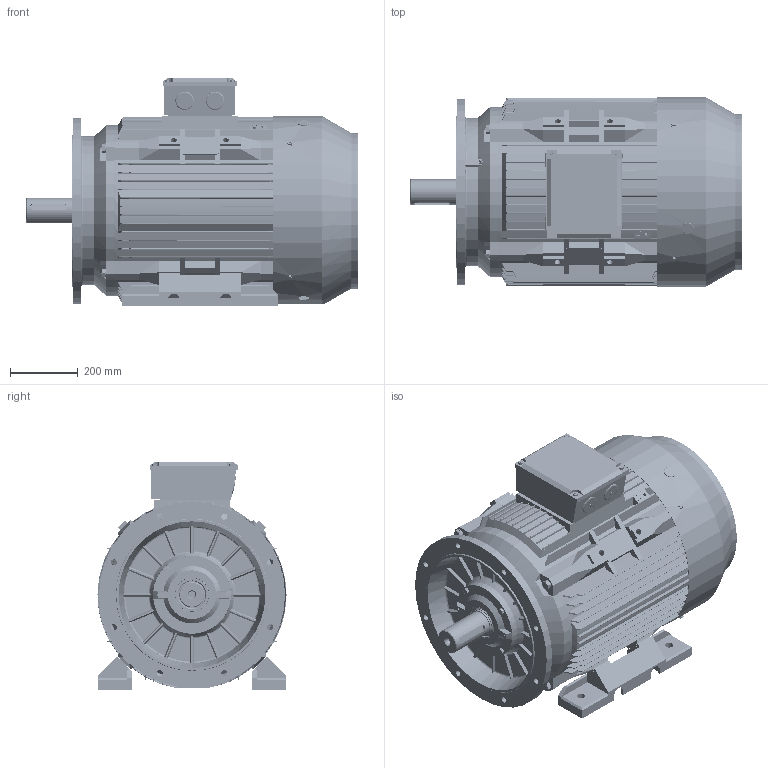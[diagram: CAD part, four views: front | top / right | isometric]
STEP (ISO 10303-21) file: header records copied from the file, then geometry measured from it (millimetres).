
FILE_DESCRIPTION (( 'STEP AP214' ), '1' );
FILE_NAME ('BCT3450.28A635.11.STEP', '2020-04-23T15:02:56', ( '' ), ( '' ), 'SwSTEP 2.0', 'SolidWorks 2019', '' );
FILE_SCHEMA (( 'AUTOMOTIVE_DESIGN' ));
Length unit declared in the file: millimetre
Products named in the file (1): BCT3450.28A635.11
Bounding box: 981.2 x 559 x 671.14 mm (x, y, z)
Volume: 38412423.9 mm3; surface area: 7072238.7 mm2
Topology: 43 solids, 44 shells, 10031 faces, 29397 edges, 19390 vertices
Faces by surface type: plane 5006, cylinder 4237, cone 318, torus 231, sphere 124, bspline 115
Entity records: 367327 total; most frequent: CARTESIAN_POINT 93397, ORIENTED_EDGE 58386, DIRECTION 56208, EDGE_CURVE 29193, VERTEX_POINT 19328, AXIS2_PLACEMENT_3D 19145, LINE 17918, VECTOR 17918
